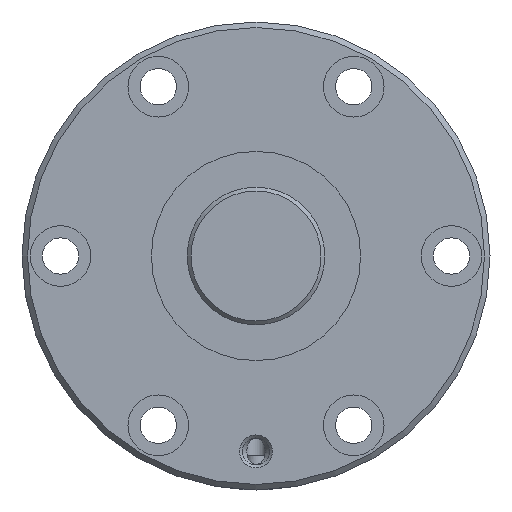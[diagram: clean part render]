
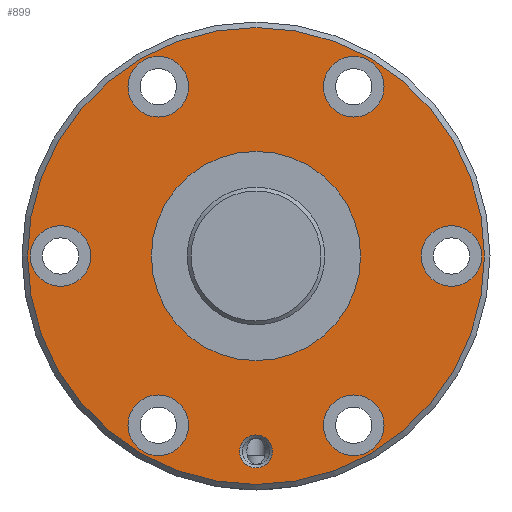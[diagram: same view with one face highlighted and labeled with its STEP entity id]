
A CAD part, left-side view. The second image highlights one B-rep face of the part: STEP entity #899.
In plain terms, the highlighted planar face has unit normal (-1, 0, 0).
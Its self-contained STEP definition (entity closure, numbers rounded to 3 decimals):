
#147=ORIENTED_EDGE('',*,*,#340,.T.);
#148=ORIENTED_EDGE('',*,*,#341,.T.);
#149=ORIENTED_EDGE('',*,*,#342,.T.);
#150=ORIENTED_EDGE('',*,*,#343,.T.);
#151=ORIENTED_EDGE('',*,*,#344,.T.);
#152=ORIENTED_EDGE('',*,*,#345,.T.);
#153=ORIENTED_EDGE('',*,*,#346,.T.);
#154=ORIENTED_EDGE('',*,*,#347,.T.);
#155=ORIENTED_EDGE('',*,*,#339,.F.);
#339=EDGE_CURVE('',#439,#439,#522,.T.);
#340=EDGE_CURVE('',#440,#440,#523,.T.);
#341=EDGE_CURVE('',#441,#441,#524,.F.);
#342=EDGE_CURVE('',#442,#442,#525,.T.);
#343=EDGE_CURVE('',#443,#443,#526,.T.);
#344=EDGE_CURVE('',#444,#444,#527,.T.);
#345=EDGE_CURVE('',#445,#445,#528,.T.);
#346=EDGE_CURVE('',#446,#446,#529,.T.);
#347=EDGE_CURVE('',#447,#447,#530,.T.);
#439=VERTEX_POINT('',#1510);
#440=VERTEX_POINT('',#1513);
#441=VERTEX_POINT('',#1515);
#442=VERTEX_POINT('',#1517);
#443=VERTEX_POINT('',#1519);
#444=VERTEX_POINT('',#1521);
#445=VERTEX_POINT('',#1523);
#446=VERTEX_POINT('',#1525);
#447=VERTEX_POINT('',#1527);
#522=CIRCLE('',#1005,41.5);
#523=CIRCLE('',#1007,19.);
#524=CIRCLE('',#1008,5.5);
#525=CIRCLE('',#1009,3.);
#526=CIRCLE('',#1010,5.5);
#527=CIRCLE('',#1011,5.5);
#528=CIRCLE('',#1012,5.5);
#529=CIRCLE('',#1013,5.5);
#530=CIRCLE('',#1014,5.5);
#602=EDGE_LOOP('',(#147));
#603=EDGE_LOOP('',(#148));
#604=EDGE_LOOP('',(#149));
#605=EDGE_LOOP('',(#150));
#606=EDGE_LOOP('',(#151));
#607=EDGE_LOOP('',(#152));
#608=EDGE_LOOP('',(#153));
#609=EDGE_LOOP('',(#154));
#610=EDGE_LOOP('',(#155));
#742=FACE_BOUND('',#602,.T.);
#743=FACE_BOUND('',#603,.T.);
#744=FACE_BOUND('',#604,.T.);
#745=FACE_BOUND('',#605,.T.);
#746=FACE_BOUND('',#606,.T.);
#747=FACE_BOUND('',#607,.T.);
#748=FACE_BOUND('',#608,.T.);
#749=FACE_BOUND('',#609,.T.);
#750=FACE_BOUND('',#610,.T.);
#864=PLANE('',#1006);
#899=ADVANCED_FACE('',(#742,#743,#744,#745,#746,#747,#748,#749,#750),#864,
 .T.);
#1005=AXIS2_PLACEMENT_3D('',#1509,#1171,#1172);
#1006=AXIS2_PLACEMENT_3D('',#1511,#1173,#1174);
#1007=AXIS2_PLACEMENT_3D('',#1512,#1175,#1176);
#1008=AXIS2_PLACEMENT_3D('',#1514,#1177,#1178);
#1009=AXIS2_PLACEMENT_3D('',#1516,#1179,#1180);
#1010=AXIS2_PLACEMENT_3D('',#1518,#1181,#1182);
#1011=AXIS2_PLACEMENT_3D('',#1520,#1183,#1184);
#1012=AXIS2_PLACEMENT_3D('',#1522,#1185,#1186);
#1013=AXIS2_PLACEMENT_3D('',#1524,#1187,#1188);
#1014=AXIS2_PLACEMENT_3D('',#1526,#1189,#1190);
#1171=DIRECTION('',(1.,0.,0.));
#1172=DIRECTION('',(0.,0.,-1.));
#1173=DIRECTION('',(-1.,0.,0.));
#1174=DIRECTION('',(0.,0.,1.));
#1175=DIRECTION('',(1.,0.,0.));
#1176=DIRECTION('',(0.,0.,-1.));
#1177=DIRECTION('',(-1.,0.,0.));
#1178=DIRECTION('',(0.,0.,1.));
#1179=DIRECTION('',(1.,0.,0.));
#1180=DIRECTION('',(0.,0.,-1.));
#1181=DIRECTION('',(1.,0.,0.));
#1182=DIRECTION('',(0.,0.,-1.));
#1183=DIRECTION('',(1.,0.,0.));
#1184=DIRECTION('',(0.,0.,-1.));
#1185=DIRECTION('',(1.,0.,0.));
#1186=DIRECTION('',(0.,0.,-1.));
#1187=DIRECTION('',(1.,0.,0.));
#1188=DIRECTION('',(0.,0.,-1.));
#1189=DIRECTION('',(1.,0.,0.));
#1190=DIRECTION('',(0.,0.,-1.));
#1509=CARTESIAN_POINT('',(0.,0.,0.));
#1510=CARTESIAN_POINT('',(0.,0.,-41.5));
#1511=CARTESIAN_POINT('',(0.,41.5,0.));
#1512=CARTESIAN_POINT('',(0.,0.,0.));
#1513=CARTESIAN_POINT('',(0.,0.,-19.));
#1514=CARTESIAN_POINT('',(0.,35.5,0.));
#1515=CARTESIAN_POINT('',(0.,35.5,5.5));
#1516=CARTESIAN_POINT('',(0.,0.,-35.5));
#1517=CARTESIAN_POINT('',(0.,0.,-38.5));
#1518=CARTESIAN_POINT('',(0.,-35.5,0.));
#1519=CARTESIAN_POINT('',(0.,-35.5,-5.5));
#1520=CARTESIAN_POINT('',(0.,17.75,30.744));
#1521=CARTESIAN_POINT('',(0.,17.75,25.244));
#1522=CARTESIAN_POINT('',(0.,-17.75,-30.744));
#1523=CARTESIAN_POINT('',(0.,-17.75,-36.244));
#1524=CARTESIAN_POINT('',(0.,-17.75,30.744));
#1525=CARTESIAN_POINT('',(0.,-17.75,25.244));
#1526=CARTESIAN_POINT('',(0.,17.75,-30.744));
#1527=CARTESIAN_POINT('',(0.,17.75,-36.244));
